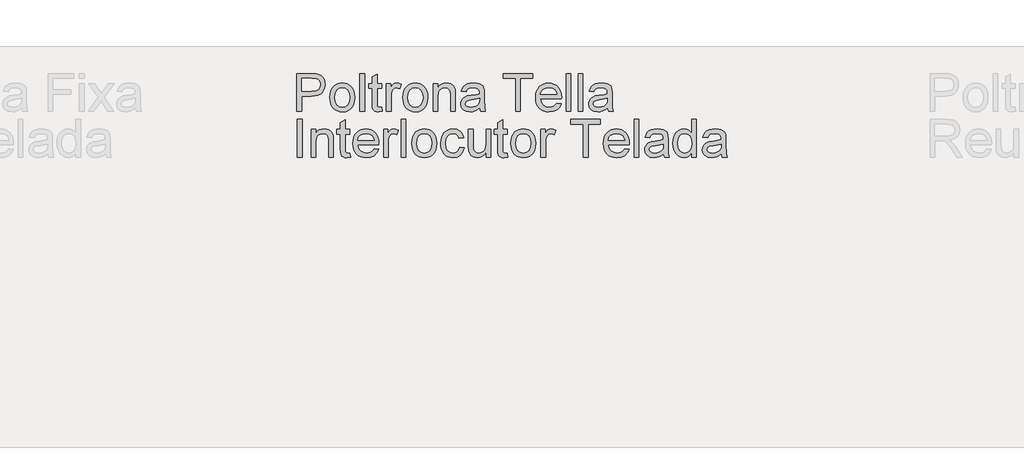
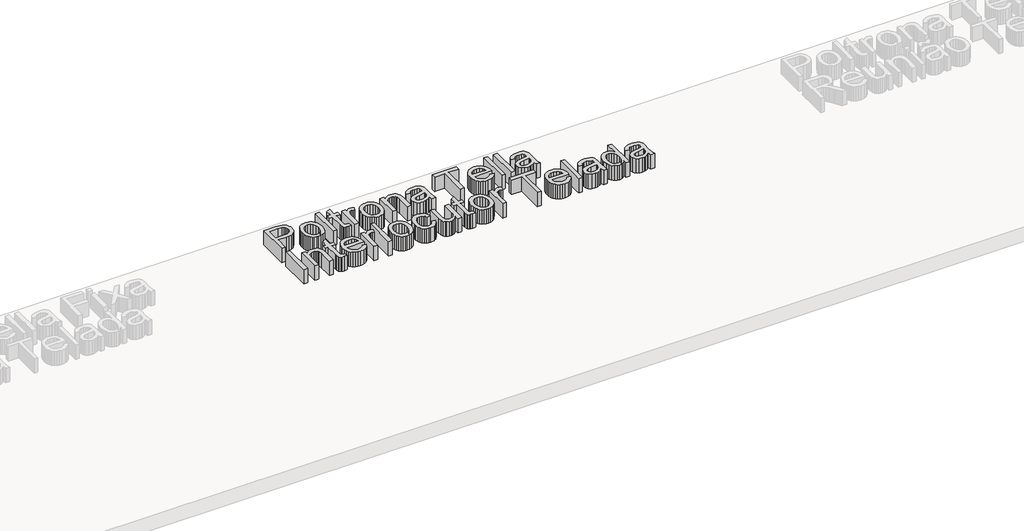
# One storey, part 2 of 5: 1 proxy.
"""IFC4 building model written with IfcOpenShell, lengths in millimetres."""

from ifc_helpers import new_model, si_unit, origin, origin_with_axes, place, context, project, spatial, polyline, outline, extrude, element, save

model = new_model("IFC4")

# Units and contexts
model_context = context("Model", 3, world=origin())
ifc_project = project(units=[si_unit("LENGTHUNIT", "METRE", prefix="MILLI")], contexts=[model_context])

# Site, building, storey
site = spatial("IfcSite", under=ifc_project)
building = spatial("IfcBuilding", under=site)
storey = spatial("IfcBuildingStorey", under=building, Name="Nível 1", Elevation=0.0)

# Proxy
placement = place(None, origin())
element("IfcBuildingElementProxy", 1, Name="300 mm", ObjectType="300 mm", at=placement, inside=storey, context=model_context, shape_type="SweptSolid", body=[
    extrude(outline(polyline([(-5053.4445609, 6303.2273262), (-5053.4445609, 6604.5962566), (-4941.7555872, 6604.5962566), (-4896.726831, 6601.7267771), (-4876.6496711, 6596.364897), (-4860.1225724, 6587.6368966), (-4846.8144413, 6575.1473029), (-4836.3941838, 6558.5006426), (-4829.6619432, 6538.8649411), (-4827.4178631, 6517.4082238), (-4828.933077, 6498.9083579), (-4833.4787189, 6481.8892171), (-4841.0547888, 6466.3508014), (-4851.6612866, 6452.2931106), (-4866.2225158, 6440.6404484), (-4885.66278, 6432.3171183), (-4909.9820791, 6427.3231202), (-4939.1804132, 6425.6584542), (-5015.7734446, 6425.6584542), (-5015.7734446, 6303.2273262), (-5053.4445609, 6303.2273262)]), holes=[polyline([(-5015.7734446, 6463.3295705), (-4936.9731212, 6463.3295705), (-4903.5694361, 6466.7876612), (-4881.4965164, 6477.1619335), (-4869.1908636, 6493.8085938), (-4865.0889794, 6516.0838486), (-4867.5078035, 6533.0064204), (-4874.7642759, 6547.2802418), (-4885.9570856, 6558.022396), (-4900.1849217, 6564.3499663), (-4937.856038, 6566.9251403), (-5015.7734446, 6566.9251403), (-5015.7734446, 6463.3295705)])]), origin_with_axes(), (0.0, 0.0, 1.0), 150.0),
    extrude(outline(polyline([(-4789.7467468, 6413.8862303), (-4787.7096002, 6442.5488363), (-4781.5981606, 6467.2475137), (-4771.4124278, 6487.9822627), (-4757.152402, 6504.7530831), (-4742.7958071, 6515.4722448), (-4726.9492902, 6523.1287888), (-4709.6128512, 6527.7227152), (-4690.7864901, 6529.254024), (-4670.0034566, 6527.3893221), (-4651.2115844, 6521.7952165), (-4634.4108736, 6512.4717072), (-4619.601324, 6499.4187942), (-4607.5141012, 6483.0779358), (-4598.8803706, 6463.8905905), (-4593.7001323, 6441.8567583), (-4591.9733862, 6416.9764391), (-4595.0268067, 6378.9190467), (-4604.1870684, 6349.9483396), (-4619.1874568, 6328.2524989), (-4639.7612573, 6312.0197058), (-4664.1978189, 6301.8937539), (-4690.7864901, 6298.5184366), (-4711.8730262, 6300.3762407), (-4730.8396423, 6305.9496529), (-4747.6863384, 6315.2386733), (-4762.4131145, 6328.2433018), (-4774.3715786, 6344.7428093), (-4782.9133387, 6364.5164666), (-4788.0383947, 6387.5642736), (-4789.7467468, 6413.8862303)]), holes=[polyline([(-4752.0756305, 6413.9598067), (-4747.7162288, 6379.8663428), (-4734.6380239, 6355.5769341), (-4714.9563371, 6341.0363982), (-4690.7864901, 6336.1895529), (-4666.7270076, 6341.0639894), (-4647.082109, 6355.6872987), (-4634.0039041, 6380.2986042), (-4629.6445025, 6415.1370291), (-4634.0314953, 6448.2372116), (-4647.1924736, 6472.1955265), (-4666.8649633, 6486.7360624), (-4690.7864901, 6491.5829077), (-4714.9563371, 6486.7544565), (-4734.6380239, 6472.2691029), (-4747.7162288, 6448.0348765), (-4752.0756305, 6413.9598067)])]), origin_with_axes(), (0.0, 0.0, 1.0), 150.0),
    extrude(outline(polyline([(-4549.5933803, 6303.2273262), (-4549.5933803, 6604.5962566), (-4511.922264, 6604.5962566), (-4511.922264, 6303.2273262), (-4549.5933803, 6303.2273262)])), origin_with_axes(), (0.0, 0.0, 1.0), 150.0),
    extrude(outline(polyline([(-4375.3644674, 6334.6444486), (-4370.6555779, 6302.1236802), (-4398.8353387, 6298.5184366), (-4416.9167388, 6300.0819351), (-4430.3996139, 6304.7724305), (-4439.9277576, 6312.0013117), (-4446.1449633, 6321.1799675), (-4449.5662658, 6336.943711), (-4450.7067, 6363.9278554), (-4450.7067, 6486.8740182), (-4478.9600372, 6486.8740182), (-4478.9600372, 6524.5451345), (-4450.7067, 6524.5451345), (-4450.7067, 6578.3294822), (-4413.0355837, 6600.4759783), (-4413.0355837, 6524.5451345), (-4375.3644674, 6524.5451345), (-4375.3644674, 6486.8740182), (-4413.0355837, 6486.8740182), (-4413.0355837, 6365.0315014), (-4411.0490209, 6345.607332), (-4404.611086, 6338.7279387), (-4391.7720044, 6336.1895529), (-4375.3644674, 6334.6444486)])), origin_with_axes(), (0.0, 0.0, 1.0), 150.0),
    extrude(outline(polyline([(-4337.6933511, 6303.2273262), (-4337.6933511, 6524.5451345), (-4304.7311243, 6524.5451345), (-4304.7311243, 6491.8036369), (-4292.5542303, 6510.7863478), (-4281.3338294, 6521.9699605), (-4270.0766404, 6527.4330081), (-4257.7893817, 6529.254024), (-4239.0274, 6526.3477562), (-4219.9711126, 6517.628953), (-4232.5526769, 6483.8573858), (-4245.7964287, 6489.6515272), (-4259.0401805, 6491.5829077), (-4270.2881725, 6489.7251036), (-4280.340548, 6484.1516914), (-4288.4615431, 6475.2857353), (-4293.9153937, 6463.5502997), (-4298.4955245, 6442.5074495), (-4300.0222348, 6419.551613), (-4300.0222348, 6303.2273262), (-4337.6933511, 6303.2273262)])), origin_with_axes(), (0.0, 0.0, 1.0), 150.0),
    extrude(outline(polyline([(-4205.844444, 6413.8862303), (-4203.8072975, 6442.5488363), (-4197.6958578, 6467.2475137), (-4187.5101251, 6487.9822627), (-4173.2500992, 6504.7530831), (-4158.8935044, 6515.4722448), (-4143.0469874, 6523.1287888), (-4125.7105484, 6527.7227152), (-4106.8841873, 6529.254024), (-4086.1011539, 6527.3893221), (-4067.3092817, 6521.7952165), (-4050.5085708, 6512.4717072), (-4035.6990213, 6499.4187942), (-4023.6117984, 6483.0779358), (-4014.9780679, 6463.8905905), (-4009.7978295, 6441.8567583), (-4008.0710834, 6416.9764391), (-4011.124504, 6378.9190467), (-4020.2847657, 6349.9483396), (-4035.285154, 6328.2524989), (-4055.8589546, 6312.0197058), (-4080.2955161, 6301.8937539), (-4106.8841873, 6298.5184366), (-4127.9707234, 6300.3762407), (-4146.9373395, 6305.9496529), (-4163.7840357, 6315.2386733), (-4178.5108118, 6328.2433018), (-4190.4692759, 6344.7428093), (-4199.011036, 6364.5164666), (-4204.136092, 6387.5642736), (-4205.844444, 6413.8862303)]), holes=[polyline([(-4168.1733277, 6413.9598067), (-4163.8139261, 6379.8663428), (-4150.7357211, 6355.5769341), (-4131.0540344, 6341.0363982), (-4106.8841873, 6336.1895529), (-4082.8247048, 6341.0639894), (-4063.1798063, 6355.6872987), (-4050.1016014, 6380.2986042), (-4045.7421997, 6415.1370291), (-4050.1291925, 6448.2372116), (-4063.2901709, 6472.1955265), (-4082.9626606, 6486.7360624), (-4106.8841873, 6491.5829077), (-4131.0540344, 6486.7544565), (-4150.7357211, 6472.2691029), (-4163.8139261, 6448.0348765), (-4168.1733277, 6413.9598067)])]), origin_with_axes(), (0.0, 0.0, 1.0), 150.0),
    extrude(outline(polyline([(-3965.6910776, 6303.2273262), (-3965.6910776, 6524.5451345), (-3928.0199613, 6524.5451345), (-3928.0199613, 6493.6430469), (-3914.9325593, 6509.2228494), (-3899.214801, 6520.3512797), (-3880.8666865, 6527.0283379), (-3859.8882158, 6529.254024), (-3841.319372, 6527.4605993), (-3824.3140268, 6522.0803251), (-3810.1321759, 6513.7845861), (-3800.0338151, 6503.2447669), (-3788.7398379, 6475.5432527), (-3786.7532751, 6439.1229352), (-3786.7532751, 6303.2273262), (-3824.4243914, 6303.2273262), (-3824.4243914, 6434.0461636), (-3828.765399, 6467.3762724), (-3834.7710725, 6477.2998892), (-3844.1060782, 6484.99782), (-3856.0714401, 6489.9366358), (-3869.9681824, 6491.5829077), (-3892.0319051, 6487.8856936), (-3910.8398721, 6476.7940515), (-3918.3561611, 6467.7395559), (-3923.724939, 6455.3649253), (-3928.0199613, 6420.655259), (-3928.0199613, 6303.2273262), (-3965.6910776, 6303.2273262)])), origin_with_axes(), (0.0, 0.0, 1.0), 150.0),
    extrude(outline(polyline([(-3593.688804, 6331.4806634), (-3611.6874307, 6316.0480137), (-3630.2194862, 6305.9496529), (-3649.7080349, 6300.3762407), (-3670.576141, 6298.5184366), (-3702.0576428, 6302.9882029), (-3725.2801937, 6316.3975016), (-3739.6000004, 6336.75977), (-3744.3732693, 6362.0884454), (-3742.5706475, 6377.7050361), (-3737.1627822, 6391.886887), (-3728.8210579, 6404.0269928), (-3718.2168594, 6413.5183483), (-3691.8397204, 6425.8791834), (-3659.2453756, 6431.5445661), (-3620.7281307, 6437.5042544), (-3593.9095332, 6444.4940123), (-3593.688804, 6452.8817218), (-3596.2823721, 6469.693929), (-3604.0630763, 6480.6936006), (-3621.4638947, 6488.8605809), (-3645.7073182, 6491.5829077), (-3668.1481199, 6489.7710889), (-3683.8198929, 6484.3356324), (-3694.5068648, 6474.2832569), (-3701.9932634, 6458.6206809), (-3739.6643797, 6463.3295705), (-3733.1252773, 6483.9309622), (-3723.3672073, 6500.11777), (-3709.479662, 6512.4969991), (-3690.5521334, 6521.6756549), (-3667.4031588, 6527.3594317), (-3640.8512758, 6529.254024), (-3615.3846447, 6527.5801609), (-3595.1971202, 6522.5585717), (-3579.9760027, 6515.0077937), (-3569.4085924, 6505.7463645), (-3562.4004404, 6494.2960374), (-3557.8570977, 6480.1785658), (-3556.0176877, 6447.2163391), (-3556.0176877, 6400.3481729), (-3554.1047014, 6334.9019659), (-3546.5999087, 6303.2273262), (-3584.271025, 6303.2273262), (-3593.688804, 6331.4806634)]), holes=[polyline([(-3593.688804, 6406.822896), (-3654.4629096, 6395.2714014), (-3686.8733134, 6389.1645602), (-3701.551805, 6379.2317464), (-3706.702153, 6364.7371958), (-3703.8970528, 6353.535189), (-3695.4817521, 6344.3565332), (-3681.640192, 6338.231298), (-3662.5563135, 6336.1895529), (-3642.3228038, 6338.4428302), (-3624.4437388, 6345.2026618), (-3609.9491882, 6355.1630668), (-3599.8692216, 6367.0180641), (-3595.3994553, 6379.2317464), (-3593.9095332, 6396.1543181), (-3593.688804, 6406.822896)])]), origin_with_axes(), (0.0, 0.0, 1.0), 150.0),
    extrude(outline(polyline([(-3306.4465422, 6303.2273262), (-3306.4465422, 6566.9251403), (-3405.3332225, 6566.9251403), (-3405.3332225, 6604.5962566), (-3169.8887456, 6604.5962566), (-3169.8887456, 6566.9251403), (-3268.7754259, 6566.9251403), (-3268.7754259, 6303.2273262), (-3306.4465422, 6303.2273262)])), origin_with_axes(), (0.0, 0.0, 1.0), 150.0),
    extrude(outline(polyline([(-2977.2657329, 6369.1517797), (-2940.3303806, 6364.4428902), (-2953.6385118, 6336.6126172), (-2974.8745, 6315.8088904), (-3003.5600985, 6302.8410501), (-3039.2170609, 6298.5184366), (-3062.5913632, 6300.3831385), (-3083.4180826, 6305.9772441), (-3101.6972193, 6315.3007534), (-3117.4287731, 6328.3536664), (-3130.0793152, 6344.7726997), (-3139.1154167, 6364.1945698), (-3144.5370776, 6386.6192767), (-3146.3442979, 6412.0468203), (-3144.5186835, 6438.3365874), (-3139.0418403, 6461.5085546), (-3129.9137683, 6481.5627219), (-3117.1344675, 6498.4990892), (-3101.4443004, 6511.9543732), (-3083.5836295, 6521.5652903), (-3063.5524549, 6527.3318406), (-3041.3507765, 6529.254024), (-3019.8641687, 6527.3364391), (-3000.4331016, 6521.5836844), (-2983.0575751, 6511.9957599), (-2967.7375893, 6498.5726656), (-2955.2319007, 6481.6730864), (-2946.299266, 6461.6557074), (-2940.9396852, 6438.5205284), (-2939.1531582, 6412.2675495), (-2939.3738874, 6402.1140065), (-3108.6731816, 6402.1140065), (-3102.1524732, 6373.9158515), (-3087.0049321, 6353.1857011), (-3065.1435445, 6340.43859), (-3038.4812969, 6336.1895529), (-3018.4317282, 6338.1577216), (-3001.5459446, 6344.0622276), (-2987.8239462, 6354.270953), (-2977.2657329, 6369.1517797)]), holes=[polyline([(-3108.6731816, 6439.7851228), (-2976.8242745, 6439.7851228), (-2981.9194402, 6459.6875387), (-2991.9074363, 6473.9245719), (-3013.8699914, 6487.1683238), (-3041.4979293, 6491.5829077), (-3066.890984, 6488.0604376), (-3087.8878489, 6477.4930273), (-3102.483567, 6461.0211109), (-3108.6731816, 6439.7851228)])]), origin_with_axes(), (0.0, 0.0, 1.0), 150.0),
    extrude(outline(polyline([(-2901.4820419, 6303.2273262), (-2901.4820419, 6604.5962566), (-2863.8109256, 6604.5962566), (-2863.8109256, 6303.2273262), (-2901.4820419, 6303.2273262)])), origin_with_axes(), (0.0, 0.0, 1.0), 150.0),
    extrude(outline(polyline([(-2807.3042512, 6303.2273262), (-2807.3042512, 6604.5962566), (-2769.6331349, 6604.5962566), (-2769.6331349, 6303.2273262), (-2807.3042512, 6303.2273262)])), origin_with_axes(), (0.0, 0.0, 1.0), 150.0),
    extrude(outline(polyline([(-2571.8597742, 6331.4806634), (-2589.8584009, 6316.0480137), (-2608.3904564, 6305.9496529), (-2627.8790051, 6300.3762407), (-2648.7471112, 6298.5184366), (-2680.228613, 6302.9882029), (-2703.4511639, 6316.3975016), (-2717.7709706, 6336.75977), (-2722.5442395, 6362.0884454), (-2720.7416177, 6377.7050361), (-2715.3337524, 6391.886887), (-2706.9920281, 6404.0269928), (-2696.3878296, 6413.5183483), (-2670.0106906, 6425.8791834), (-2637.4163458, 6431.5445661), (-2598.8991009, 6437.5042544), (-2572.0805034, 6444.4940123), (-2571.8597742, 6452.8817218), (-2574.4533423, 6469.693929), (-2582.2340465, 6480.6936006), (-2599.6348649, 6488.8605809), (-2623.8782884, 6491.5829077), (-2646.3190901, 6489.7710889), (-2661.9908631, 6484.3356324), (-2672.677835, 6474.2832569), (-2680.1642336, 6458.6206809), (-2717.8353499, 6463.3295705), (-2711.2962475, 6483.9309622), (-2701.5381775, 6500.11777), (-2687.6506322, 6512.4969991), (-2668.7231036, 6521.6756549), (-2645.574129, 6527.3594317), (-2619.022246, 6529.254024), (-2593.5556149, 6527.5801609), (-2573.3680904, 6522.5585717), (-2558.1469729, 6515.0077937), (-2547.5795626, 6505.7463645), (-2540.5714106, 6494.2960374), (-2536.0280679, 6480.1785658), (-2534.1886579, 6447.2163391), (-2534.1886579, 6400.3481729), (-2532.2756716, 6334.9019659), (-2524.7708789, 6303.2273262), (-2562.4419952, 6303.2273262), (-2571.8597742, 6331.4806634)]), holes=[polyline([(-2571.8597742, 6406.822896), (-2632.6338798, 6395.2714014), (-2665.0442836, 6389.1645602), (-2679.7227752, 6379.2317464), (-2684.8731232, 6364.7371958), (-2682.0680229, 6353.535189), (-2673.6527223, 6344.3565332), (-2659.8111622, 6338.231298), (-2640.7272837, 6336.1895529), (-2620.493774, 6338.4428302), (-2602.614709, 6345.2026618), (-2588.1201584, 6355.1630668), (-2578.0401918, 6367.0180641), (-2573.5704255, 6379.2317464), (-2572.0805034, 6396.1543181), (-2571.8597742, 6406.822896)])]), origin_with_axes(), (0.0, 0.0, 1.0), 150.0),
    extrude(outline(polyline([(-5048.7356714, 5937.3028726), (-5048.7356714, 6238.6718031), (-5011.0645551, 6238.6718031), (-5011.0645551, 5937.3028726), (-5048.7356714, 5937.3028726)])), origin_with_axes(), (0.0, 0.0, 1.0), 150.0),
    extrude(outline(polyline([(-4940.431212, 5937.3028726), (-4940.431212, 6158.6206809), (-4902.7600957, 6158.6206809), (-4902.7600957, 6127.7185933), (-4889.6726937, 6143.2983958), (-4873.9549355, 6154.4268262), (-4855.606821, 6161.1038844), (-4834.6283502, 6163.3295705), (-4816.0595065, 6161.5361457), (-4799.0541612, 6156.1558716), (-4784.8723103, 6147.8601326), (-4774.7739496, 6137.3203134), (-4763.4799723, 6109.6187992), (-4761.4934095, 6073.1984816), (-4761.4934095, 5937.3028726), (-4799.1645258, 5937.3028726), (-4799.1645258, 6068.1217101), (-4803.5055334, 6101.4518189), (-4809.511207, 6111.3754357), (-4818.8462126, 6119.0733664), (-4830.8115745, 6124.0121822), (-4844.7083168, 6125.6584542), (-4866.7720395, 6121.9612401), (-4885.5800065, 6110.869598), (-4893.0962955, 6101.8151023), (-4898.4650734, 6089.4404717), (-4902.7600957, 6054.7308055), (-4902.7600957, 5937.3028726), (-4940.431212, 5937.3028726)])), origin_with_axes(), (0.0, 0.0, 1.0), 150.0),
    extrude(outline(polyline([(-4629.6445025, 5968.719995), (-4624.9356129, 5936.1992266), (-4653.1153738, 5932.5939831), (-4671.1967738, 5934.1574816), (-4684.6796489, 5938.847977), (-4694.2077926, 5946.0768582), (-4700.4249983, 5955.255514), (-4703.8463009, 5971.0192575), (-4704.9867351, 5998.0034018), (-4704.9867351, 6120.9495646), (-4733.2400723, 6120.9495646), (-4733.2400723, 6158.6206809), (-4704.9867351, 6158.6206809), (-4704.9867351, 6212.4050286), (-4667.3156188, 6234.5515247), (-4667.3156188, 6158.6206809), (-4629.6445025, 6158.6206809), (-4629.6445025, 6120.9495646), (-4667.3156188, 6120.9495646), (-4667.3156188, 5999.1070478), (-4665.329056, 5979.6828785), (-4658.8911211, 5972.8034852), (-4646.0520394, 5970.2650994), (-4629.6445025, 5968.719995)])), origin_with_axes(), (0.0, 0.0, 1.0), 150.0),
    extrude(outline(polyline([(-4437.0214898, 6003.2273262), (-4400.0861375, 5998.5184366), (-4413.3942686, 5970.6881637), (-4434.6302568, 5949.8844369), (-4463.3158554, 5936.9165965), (-4498.9728178, 5932.5939831), (-4522.34712, 5934.458685), (-4543.1738395, 5940.0527905), (-4561.4529761, 5949.3762999), (-4577.18453, 5962.4292129), (-4589.8350721, 5978.8482462), (-4598.8711736, 5998.2701163), (-4604.2928345, 6020.6948231), (-4606.1000548, 6046.1223668), (-4604.2744404, 6072.4121339), (-4598.7975972, 6095.5841011), (-4589.6695252, 6115.6382683), (-4576.8902244, 6132.5746357), (-4561.2000573, 6146.0299196), (-4543.3393864, 6155.6408368), (-4523.3082118, 6161.407387), (-4501.1065333, 6163.3295705), (-4479.6199256, 6161.4119856), (-4460.1888584, 6155.6592309), (-4442.813332, 6146.0713064), (-4427.4933461, 6132.6482121), (-4414.9876575, 6115.7486329), (-4406.0550228, 6095.7312539), (-4400.695442, 6072.5960749), (-4398.9089151, 6046.343096), (-4399.1296443, 6036.1895529), (-4568.4289385, 6036.1895529), (-4561.9082301, 6007.991398), (-4546.760689, 5987.2612476), (-4524.8993014, 5974.5141364), (-4498.2370538, 5970.2650994), (-4478.187485, 5972.2332681), (-4461.3017015, 5978.1377741), (-4447.5797031, 5988.3464995), (-4437.0214898, 6003.2273262)]), holes=[polyline([(-4568.4289385, 6073.8606692), (-4436.5800314, 6073.8606692), (-4441.675197, 6093.7630852), (-4451.6631932, 6108.0001184), (-4473.6257483, 6121.2438702), (-4501.2536861, 6125.6584542), (-4526.6467409, 6122.1359841), (-4547.6436057, 6111.5685737), (-4562.2393239, 6095.0966574), (-4568.4289385, 6073.8606692)])]), origin_with_axes(), (0.0, 0.0, 1.0), 150.0),
    extrude(outline(polyline([(-4361.2377988, 5937.3028726), (-4361.2377988, 6158.6206809), (-4328.275572, 6158.6206809), (-4328.275572, 6125.8791834), (-4316.098678, 6144.8618943), (-4304.8782771, 6156.045507), (-4293.6210881, 6161.5085546), (-4281.3338294, 6163.3295705), (-4262.5718477, 6160.4233027), (-4243.5155603, 6151.7044994), (-4256.0971246, 6117.9329323), (-4269.3408764, 6123.7270737), (-4282.5846282, 6125.6584542), (-4293.8326202, 6123.8006501), (-4303.8849957, 6118.2272379), (-4312.0059908, 6109.3612818), (-4317.4598414, 6097.6258461), (-4322.0399722, 6076.582996), (-4323.5666825, 6053.6271595), (-4323.5666825, 5937.3028726), (-4361.2377988, 5937.3028726)])), origin_with_axes(), (0.0, 0.0, 1.0), 150.0),
    extrude(outline(polyline([(-4219.9711126, 5937.3028726), (-4219.9711126, 6238.6718031), (-4182.2999963, 6238.6718031), (-4182.2999963, 5937.3028726), (-4219.9711126, 5937.3028726)])), origin_with_axes(), (0.0, 0.0, 1.0), 150.0),
    extrude(outline(polyline([(-4135.2111009, 6047.9617768), (-4133.1739544, 6076.6243827), (-4127.0625148, 6101.3230602), (-4116.876782, 6122.0578091), (-4102.6167562, 6138.8286296), (-4088.2601613, 6149.5477912), (-4072.4136444, 6157.2043352), (-4055.0772053, 6161.7982617), (-4036.2508442, 6163.3295705), (-4015.4678108, 6161.4648686), (-3996.6759386, 6155.870763), (-3979.8752277, 6146.5472537), (-3965.0656782, 6133.4943407), (-3952.9784554, 6117.1534823), (-3944.3447248, 6097.966137), (-3939.1644865, 6075.9323047), (-3937.4377403, 6051.0519855), (-3940.4911609, 6012.9945931), (-3949.6514226, 5984.023886), (-3964.6518109, 5962.3280453), (-3985.2256115, 5946.0952523), (-4009.662173, 5935.9693004), (-4036.2508442, 5932.5939831), (-4057.3373804, 5934.4517872), (-4076.3039965, 5940.0251994), (-4093.1506926, 5949.3142198), (-4107.8774687, 5962.3188483), (-4119.8359328, 5978.8183558), (-4128.3776929, 5998.592013), (-4133.5027489, 6021.63982), (-4135.2111009, 6047.9617768)]), holes=[polyline([(-4097.5399846, 6048.0353532), (-4093.180583, 6013.9418893), (-4080.1023781, 5989.6524805), (-4060.4206913, 5975.1119447), (-4036.2508442, 5970.2650994), (-4012.1913618, 5975.1395358), (-3992.5464632, 5989.7628451), (-3979.4682583, 6014.3741506), (-3975.1088566, 6049.2125756), (-3979.4958494, 6082.3127581), (-3992.6568278, 6106.271073), (-4012.3293175, 6120.8116089), (-4036.2508442, 6125.6584542), (-4060.4206913, 6120.830003), (-4080.1023781, 6106.3446494), (-4093.180583, 6082.110423), (-4097.5399846, 6048.0353532)])]), origin_with_axes(), (0.0, 0.0, 1.0), 150.0),
    extrude(outline(polyline([(-3753.7910483, 6017.3539948), (-3716.119932, 6012.6451052), (-3726.622963, 5979.1402525), (-3746.359832, 5953.8207742), (-3773.4727351, 5937.9006809), (-3806.1038681, 5932.5939831), (-3827.2317909, 5934.4448894), (-3846.1754144, 5939.9976082), (-3862.9347385, 5949.2521397), (-3877.5097633, 5962.2084837), (-3889.3072791, 5978.6229185), (-3897.734076, 5998.2517222), (-3902.7901542, 6021.0948948), (-3904.4755136, 6047.1524364), (-3901.596837, 6080.6756832), (-3892.9608071, 6109.7291638), (-3878.4294683, 6133.190838), (-3857.8648648, 6149.9386658), (-3833.2627564, 6159.9818443), (-3806.6189029, 6163.3295705), (-3774.7879132, 6158.7310455), (-3749.3396762, 6144.9354707), (-3731.0835322, 6122.67861), (-3720.8288216, 6092.6962274), (-3758.4999379, 6087.9873379), (-3765.3333459, 6104.422466), (-3775.9743327, 6116.2038869), (-3789.8342868, 6123.2948123), (-3806.3245973, 6125.6584542), (-3830.6691883, 6121.0047469), (-3849.9921901, 6107.0436252), (-3862.6013455, 6083.0209309), (-3866.8043973, 6048.182506), (-3862.693316, 6012.8750315), (-3850.3600721, 5988.7695638), (-3831.3865582, 5974.8912155), (-3807.3546668, 5970.2650994), (-3787.8477241, 5973.1529731), (-3771.8540543, 5981.816594), (-3760.2197862, 5996.4766916), (-3753.7910483, 6017.3539948)])), origin_with_axes(), (0.0, 0.0, 1.0), 150.0),
    extrude(outline(polyline([(-3541.8910191, 5937.3028726), (-3541.8910191, 5975.3418709), (-3555.521047, 5956.63967), (-3571.3951551, 5943.280955), (-3589.5133434, 5935.2657261), (-3609.8756118, 5932.5939831), (-3628.2237263, 5934.4701813), (-3645.302648, 5940.0987758), (-3659.6316517, 5948.5600617), (-3669.7300124, 5958.9343339), (-3680.9504133, 5986.6726364), (-3683.1577053, 6021.6950023), (-3683.1577053, 6158.6206809), (-3645.486589, 6158.6206809), (-3645.486589, 6039.4269145), (-3643.2057206, 6001.0200342), (-3637.7150818, 5988.2085437), (-3628.3064998, 5978.4688679), (-3615.6053739, 5972.3160415), (-3600.2371036, 5970.2650994), (-3583.9859164, 5972.3620268), (-3568.783193, 5978.6528089), (-3556.247614, 5988.5580316), (-3547.9978602, 6001.4982808), (-3543.4177294, 6019.2209959), (-3541.8910191, 6043.4736164), (-3541.8910191, 6158.6206809), (-3504.2199028, 6158.6206809), (-3504.2199028, 5937.3028726), (-3541.8910191, 5937.3028726)])), origin_with_axes(), (0.0, 0.0, 1.0), 150.0),
    extrude(outline(polyline([(-3372.3709957, 5968.719995), (-3367.6621062, 5936.1992266), (-3395.841867, 5932.5939831), (-3413.9232671, 5934.1574816), (-3427.4061422, 5938.847977), (-3436.9342859, 5946.0768582), (-3443.1514916, 5955.255514), (-3446.5727942, 5971.0192575), (-3447.7132284, 5998.0034018), (-3447.7132284, 6120.9495646), (-3475.9665656, 6120.9495646), (-3475.9665656, 6158.6206809), (-3447.7132284, 6158.6206809), (-3447.7132284, 6212.4050286), (-3410.0421121, 6234.5515247), (-3410.0421121, 6158.6206809), (-3372.3709957, 6158.6206809), (-3372.3709957, 6120.9495646), (-3410.0421121, 6120.9495646), (-3410.0421121, 5999.1070478), (-3408.0555493, 5979.6828785), (-3401.6176144, 5972.8034852), (-3388.7785327, 5970.2650994), (-3372.3709957, 5968.719995)])), origin_with_axes(), (0.0, 0.0, 1.0), 150.0),
    extrude(outline(polyline([(-3344.1176585, 6047.9617768), (-3342.080512, 6076.6243827), (-3335.9690723, 6101.3230602), (-3325.7833396, 6122.0578091), (-3311.5233137, 6138.8286296), (-3297.1667189, 6149.5477912), (-3281.3202019, 6157.2043352), (-3263.9837629, 6161.7982617), (-3245.1574018, 6163.3295705), (-3224.3743684, 6161.4648686), (-3205.5824962, 6155.870763), (-3188.7817853, 6146.5472537), (-3173.9722357, 6133.4943407), (-3161.8850129, 6117.1534823), (-3153.2512824, 6097.966137), (-3148.071044, 6075.9323047), (-3146.3442979, 6051.0519855), (-3149.3977185, 6012.9945931), (-3158.5579802, 5984.023886), (-3173.5583685, 5962.3280453), (-3194.1321691, 5946.0952523), (-3218.5687306, 5935.9693004), (-3245.1574018, 5932.5939831), (-3266.2439379, 5934.4517872), (-3285.210554, 5940.0251994), (-3302.0572502, 5949.3142198), (-3316.7840263, 5962.3188483), (-3328.7424904, 5978.8183558), (-3337.2842505, 5998.592013), (-3342.4093065, 6021.63982), (-3344.1176585, 6047.9617768)]), holes=[polyline([(-3306.4465422, 6048.0353532), (-3302.0871406, 6013.9418893), (-3289.0089356, 5989.6524805), (-3269.3272489, 5975.1119447), (-3245.1574018, 5970.2650994), (-3221.0979193, 5975.1395358), (-3201.4530208, 5989.7628451), (-3188.3748159, 6014.3741506), (-3184.0154142, 6049.2125756), (-3188.402407, 6082.3127581), (-3201.5633854, 6106.271073), (-3221.2358751, 6120.8116089), (-3245.1574018, 6125.6584542), (-3269.3272489, 6120.830003), (-3289.0089356, 6106.3446494), (-3302.0871406, 6082.110423), (-3306.4465422, 6048.0353532)])]), origin_with_axes(), (0.0, 0.0, 1.0), 150.0),
    extrude(outline(polyline([(-3103.9642921, 5937.3028726), (-3103.9642921, 6158.6206809), (-3071.0020653, 6158.6206809), (-3071.0020653, 6125.8791834), (-3058.8251713, 6144.8618943), (-3047.6047704, 6156.045507), (-3036.3475814, 6161.5085546), (-3024.0603227, 6163.3295705), (-3005.298341, 6160.4233027), (-2986.2420536, 6151.7044994), (-2998.8236178, 6117.9329323), (-3012.0673697, 6123.7270737), (-3025.3111215, 6125.6584542), (-3036.5591135, 6123.8006501), (-3046.611489, 6118.2272379), (-3054.7324841, 6109.3612818), (-3060.1863346, 6097.6258461), (-3064.7664655, 6076.582996), (-3066.2931758, 6053.6271595), (-3066.2931758, 5937.3028726), (-3103.9642921, 5937.3028726)])), origin_with_axes(), (0.0, 0.0, 1.0), 150.0),
    extrude(outline(polyline([(-2764.9242453, 5937.3028726), (-2764.9242453, 6201.0006868), (-2863.8109256, 6201.0006868), (-2863.8109256, 6238.6718031), (-2628.3664487, 6238.6718031), (-2628.3664487, 6201.0006868), (-2727.253129, 6201.0006868), (-2727.253129, 5937.3028726), (-2764.9242453, 5937.3028726)])), origin_with_axes(), (0.0, 0.0, 1.0), 150.0),
    extrude(outline(polyline([(-2435.743436, 6003.2273262), (-2398.8080837, 5998.5184366), (-2412.1162149, 5970.6881637), (-2433.3522031, 5949.8844369), (-2462.0378016, 5936.9165965), (-2497.694764, 5932.5939831), (-2521.0690663, 5934.458685), (-2541.8957857, 5940.0527905), (-2560.1749224, 5949.3762999), (-2575.9064762, 5962.4292129), (-2588.5570183, 5978.8482462), (-2597.5931198, 5998.2701163), (-2603.0147807, 6020.6948231), (-2604.822001, 6046.1223668), (-2602.9963866, 6072.4121339), (-2597.5195434, 6095.5841011), (-2588.3914714, 6115.6382683), (-2575.6121706, 6132.5746357), (-2559.9220035, 6146.0299196), (-2542.0613326, 6155.6408368), (-2522.030158, 6161.407387), (-2499.8284796, 6163.3295705), (-2478.3418718, 6161.4119856), (-2458.9108047, 6155.6592309), (-2441.5352782, 6146.0713064), (-2426.2152924, 6132.6482121), (-2413.7096038, 6115.7486329), (-2404.7769691, 6095.7312539), (-2399.4173883, 6072.5960749), (-2397.6308613, 6046.343096), (-2397.8515905, 6036.1895529), (-2567.1508847, 6036.1895529), (-2560.6301763, 6007.991398), (-2545.4826352, 5987.2612476), (-2523.6212476, 5974.5141364), (-2496.959, 5970.2650994), (-2476.9094313, 5972.2332681), (-2460.0236477, 5978.1377741), (-2446.3016493, 5988.3464995), (-2435.743436, 6003.2273262)]), holes=[polyline([(-2567.1508847, 6073.8606692), (-2435.3019776, 6073.8606692), (-2440.3971433, 6093.7630852), (-2450.3851394, 6108.0001184), (-2472.3476945, 6121.2438702), (-2499.9756324, 6125.6584542), (-2525.3686871, 6122.1359841), (-2546.365552, 6111.5685737), (-2560.9612701, 6095.0966574), (-2567.1508847, 6073.8606692)])]), origin_with_axes(), (0.0, 0.0, 1.0), 150.0),
    extrude(outline(polyline([(-2359.959745, 5937.3028726), (-2359.959745, 6238.6718031), (-2322.2886287, 6238.6718031), (-2322.2886287, 5937.3028726), (-2359.959745, 5937.3028726)])), origin_with_axes(), (0.0, 0.0, 1.0), 150.0),
    extrude(outline(polyline([(-2124.5152681, 5965.5562099), (-2142.5138947, 5950.1235602), (-2161.0459502, 5940.0251994), (-2180.5344989, 5934.4517872), (-2201.4026051, 5932.5939831), (-2232.8841068, 5937.0637493), (-2256.1066578, 5950.4730481), (-2270.4264644, 5970.8353165), (-2275.1997333, 5996.1639919), (-2273.3971116, 6011.7805826), (-2267.9892462, 6025.9624335), (-2259.647522, 6038.1025393), (-2249.0433235, 6047.5938948), (-2222.6661844, 6059.9547298), (-2190.0718396, 6065.6201125), (-2151.5545948, 6071.5798009), (-2124.7359973, 6078.5695588), (-2124.5152681, 6086.9572683), (-2127.1088362, 6103.7694754), (-2134.8895404, 6114.7691471), (-2152.2903587, 6122.9361274), (-2176.5337822, 6125.6584542), (-2198.9745839, 6123.8466353), (-2214.6463569, 6118.4111789), (-2225.3333289, 6108.3588033), (-2232.8197275, 6092.6962274), (-2270.4908438, 6097.4051169), (-2263.9517413, 6118.0065087), (-2254.1936714, 6134.1933164), (-2240.3061261, 6146.5725456), (-2221.3785974, 6155.7512014), (-2198.2296229, 6161.4349782), (-2171.6777399, 6163.3295705), (-2146.2111088, 6161.6557074), (-2126.0235843, 6156.6341182), (-2110.8024667, 6149.0833402), (-2100.2350564, 6139.821911), (-2093.2269044, 6128.3715839), (-2088.6835618, 6114.2541123), (-2086.8441518, 6081.2918855), (-2086.8441518, 6034.4237194), (-2084.9311654, 5968.9775124), (-2077.4263727, 5937.3028726), (-2115.097489, 5937.3028726), (-2124.5152681, 5965.5562099)]), holes=[polyline([(-2124.5152681, 6040.8984425), (-2185.2893737, 6029.3469478), (-2217.6997775, 6023.2401067), (-2232.3782691, 6013.3072928), (-2237.528617, 5998.8127422), (-2234.7235168, 5987.6107355), (-2226.3082162, 5978.4320797), (-2212.4666561, 5972.3068445), (-2193.3827776, 5970.2650994), (-2173.1492679, 5972.5183766), (-2155.2702029, 5979.2782083), (-2140.7756523, 5989.2386133), (-2130.6956856, 6001.0936106), (-2126.2259194, 6013.3072928), (-2124.7359973, 6030.2298646), (-2124.5152681, 6040.8984425)])]), origin_with_axes(), (0.0, 0.0, 1.0), 150.0),
    extrude(outline(polyline([(-1898.4885703, 5937.3028726), (-1898.4885703, 5972.8402734), (-1909.7595549, 5955.2325214), (-1923.4125754, 5942.6555557), (-1939.4476319, 5935.1093762), (-1957.8647243, 5932.5939831), (-1982.2185124, 5936.2360148), (-2004.5121613, 5947.1621101), (-2023.3845076, 5964.6089137), (-2037.474388, 5987.8130706), (-2046.2483736, 6015.8364815), (-2049.1730355, 6047.7410476), (-2046.4782999, 6079.2501405), (-2038.394093, 6107.7058128), (-2024.929612, 6131.4893838), (-2006.0940539, 6148.9821727), (-1983.3129613, 6159.742721), (-1958.0118771, 6163.3295705), (-1939.5809891, 6160.7635935), (-1923.2838167, 6153.0656628), (-1909.4698478, 6141.2658478), (-1898.4885703, 6126.3942181), (-1898.4885703, 6238.6718031), (-1860.817454, 6238.6718031), (-1860.817454, 5937.3028726), (-1898.4885703, 5937.3028726)]), holes=[polyline([(-2011.5019192, 6047.8882004), (-2007.2528821, 6013.8131306), (-1994.505771, 5989.5789041), (-1975.9829126, 5975.0935506), (-1954.4066335, 5970.2650994), (-1932.8395516, 5974.8728214), (-1914.7857427, 5988.6959874), (-1902.5628634, 6011.9921147), (-1898.4885703, 6045.0187208), (-1902.6364398, 6081.1263386), (-1915.0800483, 6106.1607084), (-1933.5937097, 6120.7840177), (-1955.9517379, 6125.6584542), (-1977.7487461, 6120.9771558), (-1995.609417, 6106.9332606), (-2007.5287936, 6082.8093988), (-2011.5019192, 6047.8882004)])]), origin_with_axes(), (0.0, 0.0, 1.0), 150.0),
    extrude(outline(polyline([(-1663.0440934, 5965.5562099), (-1681.04272, 5950.1235602), (-1699.5747755, 5940.0251994), (-1719.0633242, 5934.4517872), (-1739.9314304, 5932.5939831), (-1771.4129321, 5937.0637493), (-1794.635483, 5950.4730481), (-1808.9552897, 5970.8353165), (-1813.7285586, 5996.1639919), (-1811.9259368, 6011.7805826), (-1806.5180715, 6025.9624335), (-1798.1763472, 6038.1025393), (-1787.5721487, 6047.5938948), (-1761.1950097, 6059.9547298), (-1728.6006649, 6065.6201125), (-1690.08342, 6071.5798009), (-1663.2648226, 6078.5695588), (-1663.0440934, 6086.9572683), (-1665.6376614, 6103.7694754), (-1673.4183656, 6114.7691471), (-1690.819184, 6122.9361274), (-1715.0626075, 6125.6584542), (-1737.5034092, 6123.8466353), (-1753.1751822, 6118.4111789), (-1763.8621541, 6108.3588033), (-1771.3485527, 6092.6962274), (-1809.019669, 6097.4051169), (-1802.4805666, 6118.0065087), (-1792.7224967, 6134.1933164), (-1778.8349513, 6146.5725456), (-1759.9074227, 6155.7512014), (-1736.7584481, 6161.4349782), (-1710.2065651, 6163.3295705), (-1684.739934, 6161.6557074), (-1664.5524095, 6156.6341182), (-1649.331292, 6149.0833402), (-1638.7638817, 6139.821911), (-1631.7557297, 6128.3715839), (-1627.212387, 6114.2541123), (-1625.3729771, 6081.2918855), (-1625.3729771, 6034.4237194), (-1623.4599907, 5968.9775124), (-1615.955198, 5937.3028726), (-1653.6263143, 5937.3028726), (-1663.0440934, 5965.5562099)]), holes=[polyline([(-1663.0440934, 6040.8984425), (-1723.818199, 6029.3469478), (-1756.2286027, 6023.2401067), (-1770.9070943, 6013.3072928), (-1776.0574423, 5998.8127422), (-1773.2523421, 5987.6107355), (-1764.8370414, 5978.4320797), (-1750.9954814, 5972.3068445), (-1731.9116029, 5970.2650994), (-1711.6780931, 5972.5183766), (-1693.7990282, 5979.2782083), (-1679.3044775, 5989.2386133), (-1669.2245109, 6001.0936106), (-1664.7547446, 6013.3072928), (-1663.2648226, 6030.2298646), (-1663.0440934, 6040.8984425)])]), origin_with_axes(), (0.0, 0.0, 1.0), 150.0),
])

save(model, "model.ifc")
